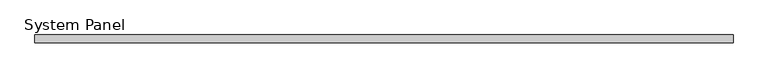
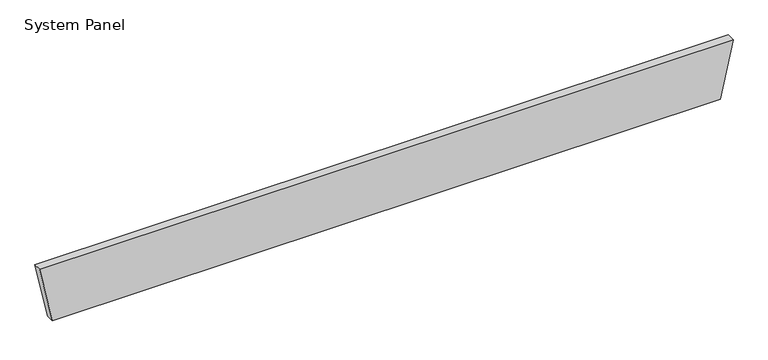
"""IFC4 building model written with IfcOpenShell, lengths in millimetres: plate geometry, System Panel : MetecnoPanel_150mm_Plain_Surfmist."""

import ifcopenshell
import ifcopenshell.guid

model = None  # the IFC model being written
_history = None  # IfcOwnerHistory: only IFC2X3 demands one
_inside = {}  # id of a spatial element -> (the spatial element, [elements in it])
_under = {}  # id of a project, library or spatial element -> (it, [spatial elements below it])
_declared = {}  # id of a project -> (the project, [libraries it declares])
_typed = {}  # id of a type object -> (the type object, [elements of that type])
_made_of = {}  # id of a material, layer set ... -> (it, [elements and type objects made of it])


def new_model(schema):
    """Start an empty IFC model of exactly this schema.

    Asked for "IFC4X3", IfcOpenShell would pick the latest addendum, in which some entities
    have other attributes; the version numbers below select the first issue.
    IFC2X3 requires an IfcOwnerHistory on every rooted entity: one is made here for all.
    """
    global model, _history
    if schema == "IFC4X3":
        model = ifcopenshell.file(schema_version=(4, 3, 0, 0))
    else:
        model = ifcopenshell.file(schema=schema)
    _inside.clear()
    _under.clear()
    _declared.clear()
    _typed.clear()
    _made_of.clear()
    _history = None
    if model.schema == "IFC2X3":
        org = make("IfcOrganization", Name="unknown")
        user = make(
            "IfcPersonAndOrganization",
            ThePerson=make("IfcPerson", FamilyName="unknown"),
            TheOrganization=org,
        )
        app = make(
            "IfcApplication",
            ApplicationDeveloper=org,
            Version="unknown",
            ApplicationFullName="unknown",
            ApplicationIdentifier="unknown",
        )
        _history = make(
            "IfcOwnerHistory",
            OwningUser=user,
            OwningApplication=app,
            ChangeAction="ADDED",
            CreationDate=0,
        )
    return model


def make(cls, **values):
    """One entity of the class cls with the attributes given. An attribute that is None is left unset."""
    return model.create_entity(
        cls, **{name: value for name, value in values.items() if value is not None}
    )


def rooted(cls, **values):
    """An entity with a GlobalId (a new one), such as an element, a storey or a relation."""
    return make(cls, GlobalId=ifcopenshell.guid.new(), OwnerHistory=_history, **values)


def si_unit(unit_type, name, prefix=None):
    """IfcSIUnit, for example si_unit("LENGTHUNIT", "METRE", prefix="MILLI")."""
    return make("IfcSIUnit", UnitType=unit_type, Prefix=prefix, Name=name)


def assignment(units):
    """IfcUnitAssignment: the units of a project."""
    return None if units is None else make("IfcUnitAssignment", Units=units)


def point(xyz):
    """IfcCartesianPoint."""
    return None if xyz is None else make("IfcCartesianPoint", Coordinates=xyz)


def direction(xyz):
    """IfcDirection."""
    return None if xyz is None else make("IfcDirection", DirectionRatios=xyz)


def frame(location, z_axis=None, x_axis=None):
    """IfcAxis2Placement3D, a coordinate frame: its origin and axes. An axis left out is left unset."""
    return make(
        "IfcAxis2Placement3D",
        Location=point(location),
        Axis=direction(z_axis),
        RefDirection=direction(x_axis),
    )


def origin():
    """The frame at (0, 0, 0) with its axes left unset."""
    return frame((0.0, 0.0, 0.0))


def place(relative_to, where):
    """IfcLocalPlacement: puts the frame where relative to a parent placement (None: the world)."""
    return make(
        "IfcLocalPlacement", PlacementRelTo=relative_to, RelativePlacement=where
    )


def context(
    kind, dimensions, precision=None, world=None, true_north=None, identifier=None
):
    """IfcGeometricRepresentationContext, for example the 3D "Model" context."""
    return make(
        "IfcGeometricRepresentationContext",
        ContextIdentifier=identifier,
        ContextType=kind,
        CoordinateSpaceDimension=dimensions,
        Precision=precision,
        WorldCoordinateSystem=world,
        TrueNorth=true_north,
    )


def project(units=None, contexts=None):
    """IfcProject with its units and contexts."""
    return rooted(
        "IfcProject",
        Name="project",
        RepresentationContexts=contexts,
        UnitsInContext=assignment(units),
    )


def spatial(cls, under=None, at=None, **own):
    """A site, building, storey or space (cls), placed at a placement, below another one or the project."""
    s = rooted(cls, ObjectPlacement=at, **own)
    if under is not None:
        _under.setdefault(under.id(), (under, []))[1].append(s)
    return s


def polyline(points):
    """IfcPolyline through the points."""
    return make("IfcPolyline", Points=[point(p) for p in points])


def outline(outer, holes=None, kind="AREA"):
    """IfcArbitraryClosedProfileDef: a profile drawn as a closed curve; with holes, ...WithVoids."""
    if holes is None:
        return make("IfcArbitraryClosedProfileDef", ProfileType=kind, OuterCurve=outer)
    return make(
        "IfcArbitraryProfileDefWithVoids",
        ProfileType=kind,
        OuterCurve=outer,
        InnerCurves=holes,
    )


def extrude(swept, where, along, depth):
    """IfcExtrudedAreaSolid: the profile swept, set in the frame where, extruded along a direction by depth."""
    return make(
        "IfcExtrudedAreaSolid",
        SweptArea=swept,
        Position=where,
        ExtrudedDirection=direction(along),
        Depth=depth,
    )


def shape(context_of_items, identifier, shape_type, items):
    """IfcShapeRepresentation: the items that make up one representation, for example the "Body"."""
    return make(
        "IfcShapeRepresentation",
        ContextOfItems=context_of_items,
        RepresentationIdentifier=identifier,
        RepresentationType=shape_type,
        Items=items,
    )


def source(mapping_origin, context_of_items, identifier, shape_type, items):
    """IfcRepresentationMap: a shape defined once, which mapped items show again and again."""
    return make(
        "IfcRepresentationMap",
        MappingOrigin=mapping_origin,
        MappedRepresentation=shape(context_of_items, identifier, shape_type, items),
    )


def transform(
    local_origin,
    x_axis=None,
    y_axis=None,
    z_axis=None,
    scale=None,
    scale2=None,
    scale3=None,
    uniform=True,
):
    """IfcCartesianTransformationOperator3D, or its non-uniform kind. x_axis, y_axis, z_axis: its Axis1, 2, 3."""
    if uniform:
        return make(
            "IfcCartesianTransformationOperator3D",
            Axis1=direction(x_axis),
            Axis2=direction(y_axis),
            LocalOrigin=point(local_origin),
            Scale=scale,
            Axis3=direction(z_axis),
        )
    return make(
        "IfcCartesianTransformationOperator3DnonUniform",
        Axis1=direction(x_axis),
        Axis2=direction(y_axis),
        LocalOrigin=point(local_origin),
        Scale=scale,
        Axis3=direction(z_axis),
        Scale2=scale2,
        Scale3=scale3,
    )


def mapped(mapping_source, mapping_target):
    """IfcMappedItem: shows the shape of a source again, moved by a transform."""
    return make(
        "IfcMappedItem", MappingSource=mapping_source, MappingTarget=mapping_target
    )


def made_of(thing, what):
    """Note that an element or type object is made of a material, layer set ...; save() writes the relation."""
    if what is not None:
        _made_of.setdefault(what.id(), (what, []))[1].append(thing)
    return thing


def element(
    cls,
    number,
    at=None,
    inside=None,
    cuts=None,
    type_object=None,
    material=None,
    context=None,
    identifier="Body",
    shape_type=None,
    held_by="IfcProductDefinitionShape",
    body=None,
    shapes=None,
    **own,
):
    """One element of the class cls, such as IfcWall. Its Tag is "e" and its number.

    at: its placement. inside: the storey or other place that contains it. cuts: it is an
    opening in that element (IfcRelVoidsElement). A single representation is given by context,
    identifier, shape_type and body (its items); several are given by shapes. held_by: the class
    of the entity that holds the representations. save() writes the other relations.
    """
    e = rooted(cls, Tag="e%d" % number, ObjectPlacement=at, **own)
    if body is not None:
        shapes = [shape(context, identifier, shape_type, body)]
    if shapes is not None:
        e.Representation = make(held_by, Representations=shapes)
    if inside is not None:
        _inside.setdefault(inside.id(), (inside, []))[1].append(e)
    if cuts is not None:
        rooted(
            "IfcRelVoidsElement", RelatingBuildingElement=cuts, RelatedOpeningElement=e
        )
    if type_object is not None:
        _typed.setdefault(type_object.id(), (type_object, []))[1].append(e)
    return made_of(e, material)


def aggregate(whole, parts):
    """IfcRelAggregates: a whole, such as a stair, and the parts it consists of."""
    return rooted("IfcRelAggregates", RelatingObject=whole, RelatedObjects=parts)


def save(model, path):
    """Write the relations noted so far, then the file.

    IfcRelAggregates (storeys below a building ...), IfcRelContainedInSpatialStructure (elements
    in a storey), IfcRelDefinesByType, IfcRelAssociatesMaterial and IfcRelDeclares: one each for
    every whole, place, type object, material and project.
    """
    for whole, parts in _under.values():
        aggregate(whole, parts)
    for where, things in _inside.values():
        rooted(
            "IfcRelContainedInSpatialStructure",
            RelatedElements=things,
            RelatingStructure=where,
        )
    for kind, things in _typed.values():
        rooted("IfcRelDefinesByType", RelatedObjects=things, RelatingType=kind)
    for what, things in _made_of.values():
        rooted("IfcRelAssociatesMaterial", RelatedObjects=things, RelatingMaterial=what)
    for by, libraries in _declared.values():
        rooted("IfcRelDeclares", RelatingContext=by, RelatedDefinitions=libraries)
    model.write(path)


def system_panel_caadb3ed(model_context):
    return source(origin(), model_context, "Body", "SweptSolid", [
        extrude(outline(polyline([(0.0, -6239.1323567), (0.0, 6239.1323567), (1100.0, 6478.2647134), (1100.0, -6478.2647134), (0.0, -6239.1323567)])), frame((0.0, -150.0, 0.0), z_axis=(0.0, 1.0, 0.0), x_axis=(0.0, 0.0, 1.0)), (0.0, 0.0, 1.0), 150.0),
    ])


if __name__ == "__main__":
    model = new_model("IFC4")
    model_context = context("Model", 3, world=origin())
    ifc_project = project(units=[si_unit("LENGTHUNIT", "METRE", prefix="MILLI")], contexts=[model_context])
    site = spatial("IfcSite", under=ifc_project)
    building = spatial("IfcBuilding", under=site)
    placement = place(None, origin())
    system_panel_shape = system_panel_caadb3ed(model_context)
    element("IfcPlate", 1, ObjectType="System Panel : MetecnoPanel_150mm_Plain_Surfmist", at=placement, inside=building, context=model_context, shape_type="MappedRepresentation", body=[
        mapped(system_panel_shape, transform((0.0, 0.0, 0.0), x_axis=(1.0, 0.0, 0.0), y_axis=(0.0, 1.0, 0.0), z_axis=(0.0, 0.0, 1.0))),
    ])
    save(model, "model.ifc")
